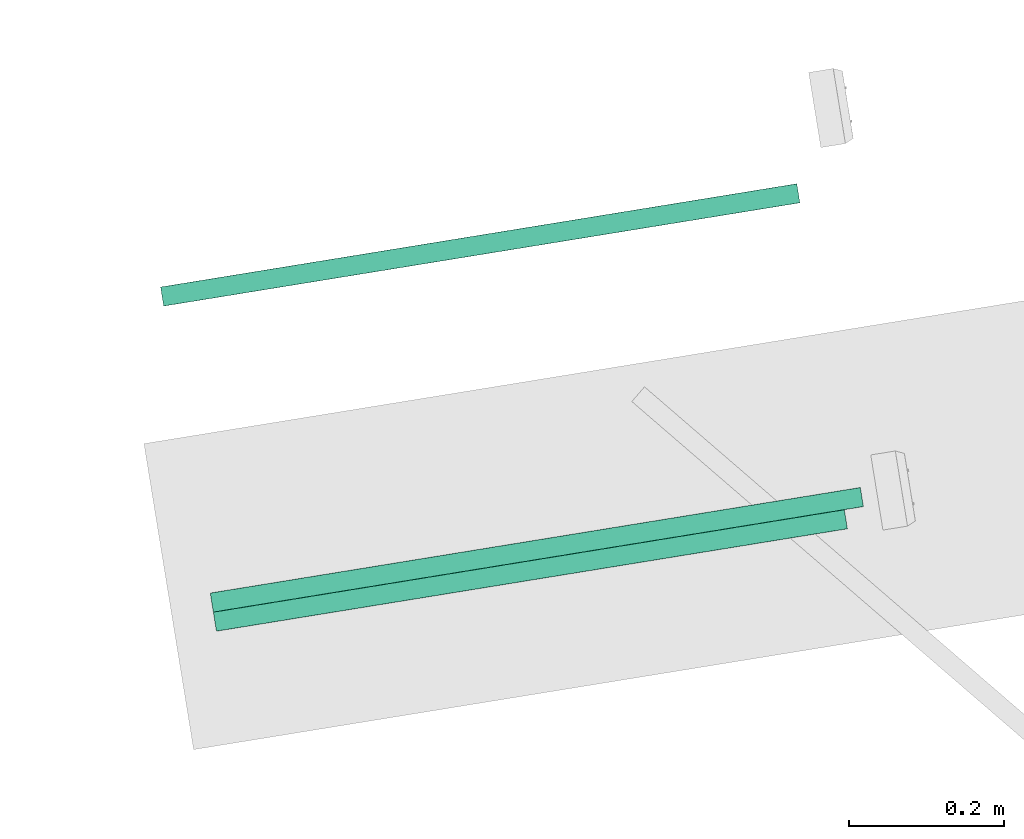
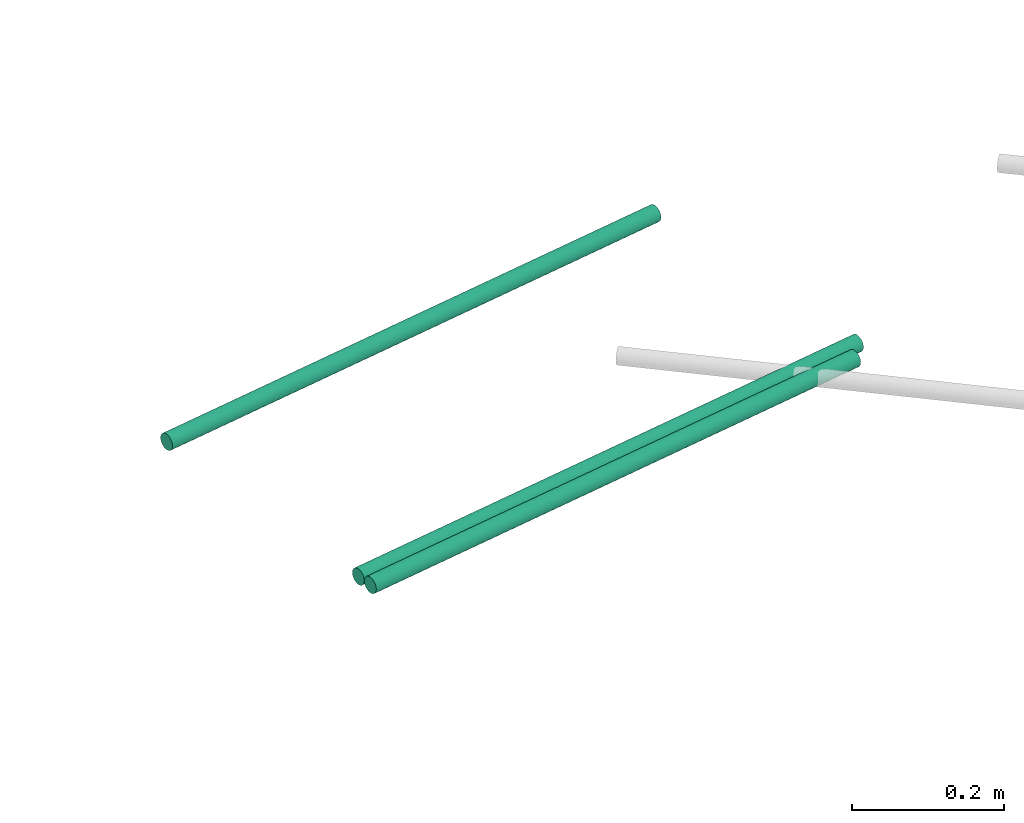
# One storey, part 8 of 33: 3 flow segments.
"""IFC2X3 building model written with IfcOpenShell, lengths in millimetres."""

from ifc_helpers import new_model, entity, si_unit, converted_unit, derived_unit, direction, frame, origin, origin_with_axes, place, context, subcontext, project, spatial, faceted_brep, type_object, element, save


model = new_model("IFC2X3")

# Units and contexts
plan_context = context("Plan", 3, precision=1e-05, world=origin_with_axes())
model_context = context("Model", 3, precision=0.01, world=origin(), true_north=direction((6.12323399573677e-17, 1.0)))
body_context = subcontext(model_context, "Body", "Model", "MODEL_VIEW")
ifc_project = project(units=[converted_unit("PLANEANGLEUNIT", "DEGREE", entity("IfcPositiveLengthMeasure", 0.0174532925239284), si_unit("PLANEANGLEUNIT", "RADIAN"), dimensions=[0, 0, 0, 0, 0, 0, 0]), si_unit("AREAUNIT", "SQUARE_METRE"), si_unit("LENGTHUNIT", "METRE", prefix="MILLI"), si_unit("MASSUNIT", "GRAM", prefix="KILO"), si_unit("POWERUNIT", "WATT"), si_unit("PRESSUREUNIT", "PASCAL", prefix="KILO"), si_unit("FORCEUNIT", "NEWTON", prefix="KILO"), si_unit("ELECTRICVOLTAGEUNIT", "VOLT"), si_unit("ELECTRICCURRENTUNIT", "AMPERE"), si_unit("THERMODYNAMICTEMPERATUREUNIT", "DEGREE_CELSIUS"), si_unit("TIMEUNIT", "SECOND"), si_unit("VOLUMEUNIT", "CUBIC_METRE"), derived_unit("LINEARVELOCITYUNIT", [(si_unit("LENGTHUNIT", "METRE"), 1), (si_unit("TIMEUNIT", "SECOND"), -1)]), derived_unit("VOLUMETRICFLOWRATEUNIT", [(si_unit("VOLUMEUNIT", "CUBIC_METRE"), 1), (si_unit("TIMEUNIT", "SECOND"), -1)]), derived_unit("THERMALTRANSMITTANCEUNIT", [(si_unit("POWERUNIT", "WATT"), 1), (si_unit("THERMODYNAMICTEMPERATUREUNIT", "KELVIN"), -1), (si_unit("AREAUNIT", "SQUARE_METRE"), -1)]), derived_unit("SOUNDPRESSUREUNIT", [(si_unit("PRESSUREUNIT", "PASCAL"), 1)])], contexts=[model_context, plan_context])

# Site, building, storey
site_placement = place(None, frame((-0.219946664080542, 0.12226179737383, 0.0), z_axis=(0.0, 0.0, 1.0), x_axis=(-0.160236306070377, 0.987078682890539, 0.0)))
site = spatial("IfcSite", under=ifc_project, at=site_placement, Name="Default", CompositionType="ELEMENT")
building_placement = place(site_placement, origin_with_axes())
building = spatial("IfcBuilding", under=site, at=building_placement, CompositionType="ELEMENT")
storey_placement = place(building_placement, frame((0.0, 0.0, 59000.0), z_axis=(0.0, 0.0, 1.0), x_axis=(1.0, 0.0, 0.0)))
storey = spatial("IfcBuildingStorey", under=building, at=storey_placement, Name="Nivå F", CompositionType="ELEMENT", Elevation=59000.0)

# Flow segments
cable_carrier_segment_type = type_object("IfcCableCarrierSegmentType", Name="Conduit without Fittings:Conduit", PredefinedType="CONDUITSEGMENT")
flow_segment_1_placement = place(storey_placement, origin_with_axes())
element("IfcFlowSegment", 1, at=flow_segment_1_placement, inside=storey, type_object=cable_carrier_segment_type, Name="Conduit without Fittings:Conduit", ObjectType="Conduit without Fittings:Conduit", context=body_context, shape_type="Brep", body=[
    faceted_brep([(775847.809547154, -500902.6780134, -59.6706022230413), (775847.619644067, -500902.6780134, -57.5000000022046), (775847.619644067, -501734.380676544, -57.5000000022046), (775847.809547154, -501734.380676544, -59.6706022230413), (775847.809547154, -500902.6780134, -55.329397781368), (775847.809547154, -501734.380676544, -55.329397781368), (775848.373486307, -500902.6780134, -53.2247482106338), (775848.373486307, -501734.380676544, -53.2247482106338), (775849.294326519, -500902.6780134, -51.2500000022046), (775849.294326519, -501734.380676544, -51.2500000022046), (775850.544088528, -500902.6780134, -49.4651548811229), (775850.544088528, -501734.380676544, -49.4651548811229), (775852.084798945, -500902.6780134, -47.9244444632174), (775852.084798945, -501734.380676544, -47.9244444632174), (775853.869644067, -500902.6780134, -46.6746824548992), (775853.869644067, -501734.380676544, -46.6746824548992), (775855.844392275, -500902.6780134, -45.7538422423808), (775855.844392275, -501734.380676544, -45.7538422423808), (775857.949041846, -500902.6780134, -45.189903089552), (775857.949041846, -501734.380676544, -45.189903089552), (775860.119644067, -500902.6780134, -45.0000000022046), (775860.119644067, -501734.380676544, -45.0000000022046), (775862.290246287, -500902.6780134, -45.189903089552), (775862.290246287, -501734.380676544, -45.189903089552), (775864.394895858, -500902.6780134, -45.7538422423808), (775864.394895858, -501734.380676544, -45.7538422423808), (775866.369644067, -500902.6780134, -46.6746824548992), (775866.369644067, -501734.380676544, -46.6746824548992), (775868.154489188, -500902.6780134, -47.9244444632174), (775868.154489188, -501734.380676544, -47.9244444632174), (775869.695199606, -500902.6780134, -49.4651548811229), (775869.695199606, -501734.380676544, -49.4651548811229), (775870.944961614, -500902.6780134, -51.2500000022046), (775870.944961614, -501734.380676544, -51.2500000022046), (775871.865801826, -500902.6780134, -53.2247482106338), (775871.865801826, -501734.380676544, -53.2247482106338), (775872.429740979, -500902.6780134, -55.329397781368), (775872.429740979, -501734.380676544, -55.329397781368), (775872.619644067, -500902.6780134, -57.5000000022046), (775872.619644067, -501734.380676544, -57.5000000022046), (775872.429740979, -500902.6780134, -59.6706022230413), (775872.429740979, -501734.380676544, -59.6706022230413), (775871.865801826, -500902.6780134, -61.7752517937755), (775871.865801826, -501734.380676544, -61.7752517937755), (775870.944961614, -500902.6780134, -63.7500000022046), (775870.944961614, -501734.380676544, -63.7500000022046), (775869.695199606, -500902.6780134, -65.5348451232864), (775869.695199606, -501734.380676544, -65.5348451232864), (775868.154489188, -500902.6780134, -67.0755555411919), (775868.154489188, -501734.380676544, -67.0755555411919), (775866.369644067, -500902.6780134, -68.3253175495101), (775866.369644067, -501734.380676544, -68.3253175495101), (775864.394895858, -500902.6780134, -69.2461577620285), (775864.394895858, -501734.380676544, -69.2461577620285), (775862.290246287, -500902.6780134, -69.8100969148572), (775862.290246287, -501734.380676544, -69.8100969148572), (775860.119644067, -500902.6780134, -70.0000000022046), (775860.119644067, -501734.380676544, -70.0000000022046), (775857.949041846, -500902.6780134, -69.8100969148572), (775857.949041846, -501734.380676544, -69.8100969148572), (775855.844392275, -500902.6780134, -69.2461577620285), (775855.844392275, -501734.380676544, -69.2461577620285), (775853.869644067, -500902.6780134, -68.3253175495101), (775853.869644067, -501734.380676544, -68.3253175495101), (775852.084798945, -500902.6780134, -67.0755555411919), (775852.084798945, -501734.380676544, -67.0755555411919), (775850.544088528, -500902.6780134, -65.5348451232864), (775850.544088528, -501734.380676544, -65.5348451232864), (775849.294326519, -500902.6780134, -63.7500000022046), (775849.294326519, -501734.380676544, -63.7500000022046), (775848.373486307, -500902.6780134, -61.7752517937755), (775848.373486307, -501734.380676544, -61.7752517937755)], [[[0, 1, 2, 3]], [[1, 4, 5, 2]], [[4, 6, 7, 5]], [[6, 8, 9, 7]], [[8, 10, 11, 9]], [[10, 12, 13, 11]], [[12, 14, 15, 13]], [[14, 16, 17, 15]], [[16, 18, 19, 17]], [[18, 20, 21, 19]], [[20, 22, 23, 21]], [[22, 24, 25, 23]], [[24, 26, 27, 25]], [[26, 28, 29, 27]], [[28, 30, 31, 29]], [[30, 32, 33, 31]], [[32, 34, 35, 33]], [[34, 36, 37, 35]], [[36, 38, 39, 37]], [[38, 40, 41, 39]], [[40, 42, 43, 41]], [[42, 44, 45, 43]], [[44, 46, 47, 45]], [[46, 48, 49, 47]], [[48, 50, 51, 49]], [[50, 52, 53, 51]], [[52, 54, 55, 53]], [[54, 56, 57, 55]], [[56, 58, 59, 57]], [[58, 60, 61, 59]], [[60, 62, 63, 61]], [[62, 64, 65, 63]], [[64, 66, 67, 65]], [[66, 68, 69, 67]], [[68, 70, 71, 69]], [[70, 0, 3, 71]], [[3, 2, 5, 7, 9, 11, 13, 15, 17, 19, 21, 23, 25, 27, 29, 31, 33, 35, 37, 39, 41, 43, 45, 47, 49, 51, 53, 55, 57, 59, 61, 63, 65, 67, 69, 71]], [[70, 68, 66, 64, 62, 60, 58, 56, 54, 52, 50, 48, 46, 44, 42, 40, 38, 36, 34, 32, 30, 28, 26, 24, 22, 20, 18, 16, 14, 12, 10, 8, 6, 4, 1, 0]]], orient=[[False], [False], [False], [False], [False], [False], [False], [False], [False], [False], [False], [False], [False], [False], [False], [False], [False], [False], [False], [False], [False], [False], [False], [False], [False], [False], [False], [False], [False], [False], [False], [False], [False], [False], [False], [False], [False], [False]]),
])
flow_segment_2_placement = place(storey_placement, origin_with_axes())
element("IfcFlowSegment", 2, at=flow_segment_2_placement, inside=storey, type_object=cable_carrier_segment_type, Name="Conduit without Fittings:Conduit", ObjectType="Conduit without Fittings:Conduit", context=body_context, shape_type="Brep", body=[
    faceted_brep([(775422.809547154, -500902.6780134, -59.6706022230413), (775422.619644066, -500902.6780134, -57.5000000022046), (775422.619644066, -501727.480498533, -57.5000000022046), (775422.809547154, -501727.480498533, -59.6706022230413), (775422.809547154, -500902.6780134, -55.329397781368), (775422.809547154, -501727.480498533, -55.329397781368), (775423.373486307, -500902.6780134, -53.2247482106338), (775423.373486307, -501727.480498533, -53.2247482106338), (775424.294326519, -500902.6780134, -51.2500000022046), (775424.294326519, -501727.480498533, -51.2500000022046), (775425.544088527, -500902.6780134, -49.4651548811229), (775425.544088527, -501727.480498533, -49.4651548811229), (775427.084798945, -500902.6780134, -47.9244444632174), (775427.084798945, -501727.480498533, -47.9244444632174), (775428.869644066, -500902.6780134, -46.6746824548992), (775428.869644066, -501727.480498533, -46.6746824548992), (775430.844392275, -500902.6780134, -45.7538422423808), (775430.844392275, -501727.480498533, -45.7538422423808), (775432.949041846, -500902.6780134, -45.189903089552), (775432.949041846, -501727.480498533, -45.189903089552), (775435.119644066, -500902.6780134, -45.0000000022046), (775435.119644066, -501727.480498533, -45.0000000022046), (775437.290246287, -500902.6780134, -45.189903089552), (775437.290246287, -501727.480498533, -45.189903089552), (775439.394895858, -500902.6780134, -45.7538422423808), (775439.394895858, -501727.480498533, -45.7538422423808), (775441.369644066, -500902.6780134, -46.6746824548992), (775441.369644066, -501727.480498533, -46.6746824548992), (775443.154489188, -500902.6780134, -47.9244444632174), (775443.154489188, -501727.480498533, -47.9244444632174), (775444.695199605, -500902.6780134, -49.4651548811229), (775444.695199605, -501727.480498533, -49.4651548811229), (775445.944961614, -500902.6780134, -51.2500000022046), (775445.944961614, -501727.480498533, -51.2500000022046), (775446.865801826, -500902.6780134, -53.2247482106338), (775446.865801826, -501727.480498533, -53.2247482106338), (775447.429740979, -500902.6780134, -55.329397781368), (775447.429740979, -501727.480498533, -55.329397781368), (775447.619644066, -500902.6780134, -57.5000000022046), (775447.619644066, -501727.480498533, -57.5000000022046), (775447.429740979, -500902.6780134, -59.6706022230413), (775447.429740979, -501727.480498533, -59.6706022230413), (775446.865801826, -500902.6780134, -61.7752517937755), (775446.865801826, -501727.480498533, -61.7752517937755), (775445.944961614, -500902.6780134, -63.7500000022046), (775445.944961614, -501727.480498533, -63.7500000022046), (775444.695199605, -500902.6780134, -65.5348451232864), (775444.695199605, -501727.480498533, -65.5348451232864), (775443.154489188, -500902.6780134, -67.0755555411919), (775443.154489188, -501727.480498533, -67.0755555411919), (775441.369644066, -500902.6780134, -68.3253175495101), (775441.369644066, -501727.480498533, -68.3253175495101), (775439.394895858, -500902.6780134, -69.2461577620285), (775439.394895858, -501727.480498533, -69.2461577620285), (775437.290246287, -500902.6780134, -69.8100969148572), (775437.290246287, -501727.480498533, -69.8100969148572), (775435.119644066, -500902.6780134, -70.0000000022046), (775435.119644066, -501727.480498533, -70.0000000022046), (775432.949041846, -500902.6780134, -69.8100969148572), (775432.949041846, -501727.480498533, -69.8100969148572), (775430.844392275, -500902.6780134, -69.2461577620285), (775430.844392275, -501727.480498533, -69.2461577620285), (775428.869644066, -500902.6780134, -68.3253175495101), (775428.869644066, -501727.480498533, -68.3253175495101), (775427.084798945, -500902.6780134, -67.0755555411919), (775427.084798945, -501727.480498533, -67.0755555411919), (775425.544088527, -500902.6780134, -65.5348451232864), (775425.544088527, -501727.480498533, -65.5348451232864), (775424.294326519, -500902.6780134, -63.7500000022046), (775424.294326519, -501727.480498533, -63.7500000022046), (775423.373486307, -500902.6780134, -61.7752517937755), (775423.373486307, -501727.480498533, -61.7752517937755)], [[[0, 1, 2, 3]], [[1, 4, 5, 2]], [[4, 6, 7, 5]], [[6, 8, 9, 7]], [[8, 10, 11, 9]], [[10, 12, 13, 11]], [[12, 14, 15, 13]], [[14, 16, 17, 15]], [[16, 18, 19, 17]], [[18, 20, 21, 19]], [[20, 22, 23, 21]], [[22, 24, 25, 23]], [[24, 26, 27, 25]], [[26, 28, 29, 27]], [[28, 30, 31, 29]], [[30, 32, 33, 31]], [[32, 34, 35, 33]], [[34, 36, 37, 35]], [[36, 38, 39, 37]], [[38, 40, 41, 39]], [[40, 42, 43, 41]], [[42, 44, 45, 43]], [[44, 46, 47, 45]], [[46, 48, 49, 47]], [[48, 50, 51, 49]], [[50, 52, 53, 51]], [[52, 54, 55, 53]], [[54, 56, 57, 55]], [[56, 58, 59, 57]], [[58, 60, 61, 59]], [[60, 62, 63, 61]], [[62, 64, 65, 63]], [[64, 66, 67, 65]], [[66, 68, 69, 67]], [[68, 70, 71, 69]], [[70, 0, 3, 71]], [[3, 2, 5, 7, 9, 11, 13, 15, 17, 19, 21, 23, 25, 27, 29, 31, 33, 35, 37, 39, 41, 43, 45, 47, 49, 51, 53, 55, 57, 59, 61, 63, 65, 67, 69, 71]], [[70, 68, 66, 64, 62, 60, 58, 56, 54, 52, 50, 48, 46, 44, 42, 40, 38, 36, 34, 32, 30, 28, 26, 24, 22, 20, 18, 16, 14, 12, 10, 8, 6, 4, 1, 0]]], orient=[[False], [False], [False], [False], [False], [False], [False], [False], [False], [False], [False], [False], [False], [False], [False], [False], [False], [False], [False], [False], [False], [False], [False], [False], [False], [False], [False], [False], [False], [False], [False], [False], [False], [False], [False], [False], [False], [False]]),
])
flow_segment_3_placement = place(storey_placement, origin_with_axes())
element("IfcFlowSegment", 3, at=flow_segment_3_placement, inside=storey, type_object=cable_carrier_segment_type, Name="Conduit without Fittings:Conduit", ObjectType="Conduit without Fittings:Conduit", context=body_context, shape_type="Brep", body=[
    faceted_brep([(775447.809547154, -500902.6780134, -59.6706022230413), (775447.619644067, -500902.6780134, -57.5000000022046), (775447.619644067, -501752.480498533, -57.5000000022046), (775447.809547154, -501752.480498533, -59.6706022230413), (775447.809547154, -500902.6780134, -55.329397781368), (775447.809547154, -501752.480498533, -55.329397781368), (775448.373486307, -500902.6780134, -53.2247482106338), (775448.373486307, -501752.480498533, -53.2247482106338), (775449.294326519, -500902.6780134, -51.2500000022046), (775449.294326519, -501752.480498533, -51.2500000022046), (775450.544088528, -500902.6780134, -49.4651548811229), (775450.544088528, -501752.480498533, -49.4651548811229), (775452.084798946, -500902.6780134, -47.9244444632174), (775452.084798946, -501752.480498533, -47.9244444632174), (775453.869644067, -500902.6780134, -46.6746824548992), (775453.869644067, -501752.480498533, -46.6746824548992), (775455.844392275, -500902.6780134, -45.7538422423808), (775455.844392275, -501752.480498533, -45.7538422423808), (775457.949041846, -500902.6780134, -45.189903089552), (775457.949041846, -501752.480498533, -45.189903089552), (775460.119644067, -500902.6780134, -45.0000000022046), (775460.119644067, -501752.480498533, -45.0000000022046), (775462.290246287, -500902.6780134, -45.189903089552), (775462.290246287, -501752.480498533, -45.189903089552), (775464.394895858, -500902.6780134, -45.7538422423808), (775464.394895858, -501752.480498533, -45.7538422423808), (775466.369644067, -500902.6780134, -46.6746824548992), (775466.369644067, -501752.480498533, -46.6746824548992), (775468.154489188, -500902.6780134, -47.9244444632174), (775468.154489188, -501752.480498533, -47.9244444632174), (775469.695199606, -500902.6780134, -49.4651548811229), (775469.695199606, -501752.480498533, -49.4651548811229), (775470.944961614, -500902.6780134, -51.2500000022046), (775470.944961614, -501752.480498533, -51.2500000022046), (775471.865801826, -500902.6780134, -53.2247482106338), (775471.865801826, -501752.480498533, -53.2247482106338), (775472.429740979, -500902.6780134, -55.329397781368), (775472.429740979, -501752.480498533, -55.329397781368), (775472.619644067, -500902.6780134, -57.5000000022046), (775472.619644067, -501752.480498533, -57.5000000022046), (775472.429740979, -500902.6780134, -59.6706022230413), (775472.429740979, -501752.480498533, -59.6706022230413), (775471.865801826, -500902.6780134, -61.7752517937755), (775471.865801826, -501752.480498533, -61.7752517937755), (775470.944961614, -500902.6780134, -63.7500000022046), (775470.944961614, -501752.480498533, -63.7500000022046), (775469.695199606, -500902.6780134, -65.5348451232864), (775469.695199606, -501752.480498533, -65.5348451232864), (775468.154489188, -500902.6780134, -67.0755555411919), (775468.154489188, -501752.480498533, -67.0755555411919), (775466.369644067, -500902.6780134, -68.3253175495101), (775466.369644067, -501752.480498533, -68.3253175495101), (775464.394895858, -500902.6780134, -69.2461577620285), (775464.394895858, -501752.480498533, -69.2461577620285), (775462.290246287, -500902.6780134, -69.8100969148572), (775462.290246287, -501752.480498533, -69.8100969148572), (775460.119644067, -500902.6780134, -70.0000000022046), (775460.119644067, -501752.480498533, -70.0000000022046), (775457.949041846, -500902.6780134, -69.8100969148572), (775457.949041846, -501752.480498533, -69.8100969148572), (775455.844392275, -500902.6780134, -69.2461577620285), (775455.844392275, -501752.480498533, -69.2461577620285), (775453.869644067, -500902.6780134, -68.3253175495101), (775453.869644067, -501752.480498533, -68.3253175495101), (775452.084798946, -500902.6780134, -67.0755555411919), (775452.084798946, -501752.480498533, -67.0755555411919), (775450.544088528, -500902.6780134, -65.5348451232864), (775450.544088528, -501752.480498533, -65.5348451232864), (775449.294326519, -500902.6780134, -63.7500000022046), (775449.294326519, -501752.480498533, -63.7500000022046), (775448.373486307, -500902.6780134, -61.7752517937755), (775448.373486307, -501752.480498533, -61.7752517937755)], [[[0, 1, 2, 3]], [[1, 4, 5, 2]], [[4, 6, 7, 5]], [[6, 8, 9, 7]], [[8, 10, 11, 9]], [[10, 12, 13, 11]], [[12, 14, 15, 13]], [[14, 16, 17, 15]], [[16, 18, 19, 17]], [[18, 20, 21, 19]], [[20, 22, 23, 21]], [[22, 24, 25, 23]], [[24, 26, 27, 25]], [[26, 28, 29, 27]], [[28, 30, 31, 29]], [[30, 32, 33, 31]], [[32, 34, 35, 33]], [[34, 36, 37, 35]], [[36, 38, 39, 37]], [[38, 40, 41, 39]], [[40, 42, 43, 41]], [[42, 44, 45, 43]], [[44, 46, 47, 45]], [[46, 48, 49, 47]], [[48, 50, 51, 49]], [[50, 52, 53, 51]], [[52, 54, 55, 53]], [[54, 56, 57, 55]], [[56, 58, 59, 57]], [[58, 60, 61, 59]], [[60, 62, 63, 61]], [[62, 64, 65, 63]], [[64, 66, 67, 65]], [[66, 68, 69, 67]], [[68, 70, 71, 69]], [[70, 0, 3, 71]], [[3, 2, 5, 7, 9, 11, 13, 15, 17, 19, 21, 23, 25, 27, 29, 31, 33, 35, 37, 39, 41, 43, 45, 47, 49, 51, 53, 55, 57, 59, 61, 63, 65, 67, 69, 71]], [[70, 68, 66, 64, 62, 60, 58, 56, 54, 52, 50, 48, 46, 44, 42, 40, 38, 36, 34, 32, 30, 28, 26, 24, 22, 20, 18, 16, 14, 12, 10, 8, 6, 4, 1, 0]]], orient=[[False], [False], [False], [False], [False], [False], [False], [False], [False], [False], [False], [False], [False], [False], [False], [False], [False], [False], [False], [False], [False], [False], [False], [False], [False], [False], [False], [False], [False], [False], [False], [False], [False], [False], [False], [False], [False], [False]]),
])

save(model, "model.ifc")
